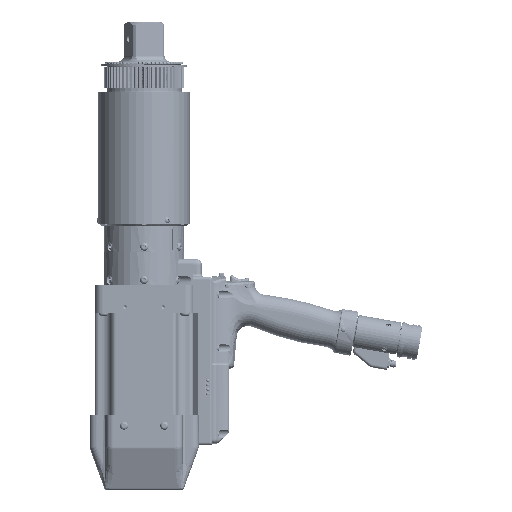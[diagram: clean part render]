
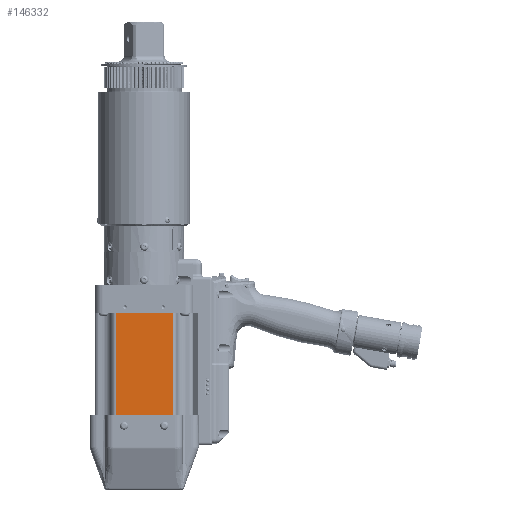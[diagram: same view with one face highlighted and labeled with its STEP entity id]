
A CAD part, left-side view. The second image highlights one B-rep face of the part: STEP entity #146332.
In plain terms, the highlighted planar face has unit normal (-1, 0, 0).
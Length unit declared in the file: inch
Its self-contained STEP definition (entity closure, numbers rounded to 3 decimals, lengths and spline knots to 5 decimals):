
#9337 = DIRECTION ( 'NONE',  ( 1., 0., 0. ) ) ;
#21414 = CARTESIAN_POINT ( 'NONE',  ( -2.2045, 1.27, -11.54144 ) ) ;
#27494 = EDGE_CURVE ( 'NONE', #143292, #377198, #367252, .T. ) ;
#72801 = CARTESIAN_POINT ( 'NONE',  ( -2.2045, -1.27, -6.73644 ) ) ;
#75677 = EDGE_CURVE ( 'NONE', #362877, #140749, #272039, .T. ) ;
#83075 = ORIENTED_EDGE ( 'NONE', *, *, #159665, .T. ) ;
#85337 = DIRECTION ( 'NONE',  ( 0., 1., 0. ) ) ;
#87436 = CARTESIAN_POINT ( 'NONE',  ( -2.2045, -1.27, -11.54144 ) ) ;
#88634 = AXIS2_PLACEMENT_3D ( 'NONE', #143797, #9337, #375646 ) ;
#89471 = LINE ( 'NONE', #323296, #387198 ) ;
#112730 = LINE ( 'NONE', #21414, #237167 ) ;
#113470 = ORIENTED_EDGE ( 'NONE', *, *, #27494, .F. ) ;
#114844 = DIRECTION ( 'NONE',  ( 0., 0., 1. ) ) ;
#117758 = PLANE ( 'NONE',  #88634 ) ;
#123564 = CARTESIAN_POINT ( 'NONE',  ( -2.2045, 1.27, -6.73644 ) ) ;
#131086 = EDGE_CURVE ( 'NONE', #377198, #140749, #112730, .T. ) ;
#139912 = DIRECTION ( 'NONE',  ( 0., 1., 0. ) ) ;
#140749 = VERTEX_POINT ( 'NONE', #123564 ) ;
#143292 = VERTEX_POINT ( 'NONE', #164177 ) ;
#143797 = CARTESIAN_POINT ( 'NONE',  ( -2.2045, -1.27, -11.54144 ) ) ;
#146332 = ADVANCED_FACE ( 'NONE', ( #208851 ), #117758, .F. ) ;
#153612 = ORIENTED_EDGE ( 'NONE', *, *, #131086, .F. ) ;
#159665 = EDGE_CURVE ( 'NONE', #143292, #362877, #89471, .T. ) ;
#164177 = CARTESIAN_POINT ( 'NONE',  ( -2.2045, -1.27, -11.54144 ) ) ;
#189657 = EDGE_LOOP ( 'NONE', ( #237381, #153612, #113470, #83075 ) ) ;
#208851 = FACE_OUTER_BOUND ( 'NONE', #189657, .T. ) ;
#219963 = CARTESIAN_POINT ( 'NONE',  ( -2.2045, 1.27, -11.54144 ) ) ;
#221596 = DIRECTION ( 'NONE',  ( 0., 0., 1. ) ) ;
#235125 = CARTESIAN_POINT ( 'NONE',  ( -2.2045, -1.27, -6.73644 ) ) ;
#237167 = VECTOR ( 'NONE', #114844, 39.37008 ) ;
#237381 = ORIENTED_EDGE ( 'NONE', *, *, #75677, .T. ) ;
#247138 = VECTOR ( 'NONE', #139912, 39.37008 ) ;
#272039 = LINE ( 'NONE', #72801, #247138 ) ;
#323296 = CARTESIAN_POINT ( 'NONE',  ( -2.2045, -1.27, -11.54144 ) ) ;
#362877 = VERTEX_POINT ( 'NONE', #235125 ) ;
#367252 = LINE ( 'NONE', #87436, #427680 ) ;
#375646 = DIRECTION ( 'NONE',  ( 0., 0., -1. ) ) ;
#377198 = VERTEX_POINT ( 'NONE', #219963 ) ;
#387198 = VECTOR ( 'NONE', #221596, 39.37008 ) ;
#427680 = VECTOR ( 'NONE', #85337, 39.37008 ) ;
